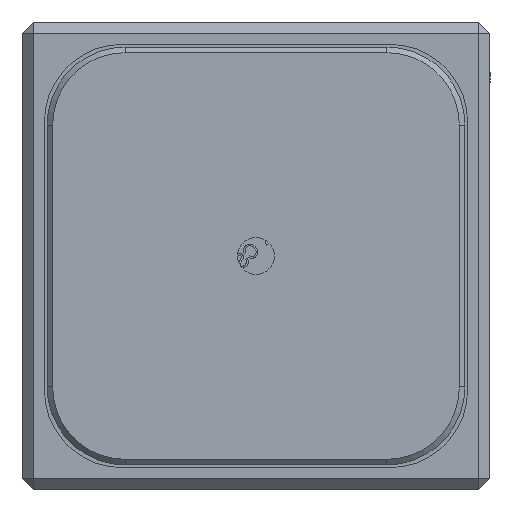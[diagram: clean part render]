
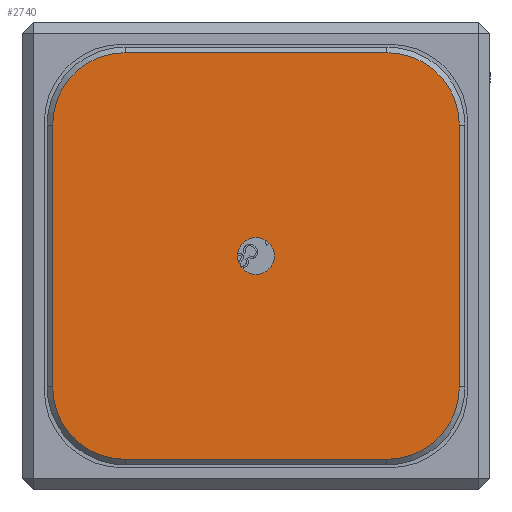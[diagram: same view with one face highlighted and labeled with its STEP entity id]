
A CAD part, front view. The second image highlights one B-rep face of the part: STEP entity #2740.
In plain terms, the highlighted planar face has unit normal (0, -1, 0).
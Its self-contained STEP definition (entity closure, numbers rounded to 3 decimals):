
#69 = CARTESIAN_POINT ( 'NONE',  ( -18.25, -21.2, 11.75 ) ) ;
#154 = ORIENTED_EDGE ( 'NONE', *, *, #4880, .T. ) ;
#442 = VERTEX_POINT ( 'NONE', #15609 ) ;
#465 = EDGE_CURVE ( 'NONE', #442, #1082, #2199, .T. ) ;
#666 = EDGE_CURVE ( 'NONE', #1082, #5731, #16135, .T. ) ;
#970 = CARTESIAN_POINT ( 'NONE',  ( 11.75, -21.2, -18.25 ) ) ;
#1014 = AXIS2_PLACEMENT_3D ( 'NONE', #7688, #13840, #17276 ) ;
#1050 = DIRECTION ( 'NONE',  ( 0., 0., 1. ) ) ;
#1082 = VERTEX_POINT ( 'NONE', #13308 ) ;
#1155 = CARTESIAN_POINT ( 'NONE',  ( 18.25, -21.2, 11.75 ) ) ;
#1922 = CARTESIAN_POINT ( 'NONE',  ( -11.75, -21.2, -11.75 ) ) ;
#2018 = EDGE_LOOP ( 'NONE', ( #2499, #2209, #15304, #154, #7221, #19973, #12090, #19936 ) ) ;
#2199 = LINE ( 'NONE', #6633, #8729 ) ;
#2209 = ORIENTED_EDGE ( 'NONE', *, *, #465, .T. ) ;
#2499 = ORIENTED_EDGE ( 'NONE', *, *, #13467, .T. ) ;
#2637 = DIRECTION ( 'NONE',  ( 0., 0., -1. ) ) ;
#2740 = ADVANCED_FACE ( 'NONE', ( #17013, #10950 ), #4410, .T. ) ;
#2750 = CARTESIAN_POINT ( 'NONE',  ( -18.25, -21.2, -11.75 ) ) ;
#3340 = VERTEX_POINT ( 'NONE', #5508 ) ;
#3693 = AXIS2_PLACEMENT_3D ( 'NONE', #1922, #13093, #4929 ) ;
#3756 = VERTEX_POINT ( 'NONE', #970 ) ;
#4260 = CARTESIAN_POINT ( 'NONE',  ( 0., -21.2, 0. ) ) ;
#4410 = PLANE ( 'NONE',  #18108 ) ;
#4531 = AXIS2_PLACEMENT_3D ( 'NONE', #15765, #10944, #17499 ) ;
#4578 = ORIENTED_EDGE ( 'NONE', *, *, #12892, .F. ) ;
#4880 = EDGE_CURVE ( 'NONE', #5731, #8986, #9009, .T. ) ;
#4929 = DIRECTION ( 'NONE',  ( 0., 0., 1. ) ) ;
#5426 = VERTEX_POINT ( 'NONE', #6349 ) ;
#5508 = CARTESIAN_POINT ( 'NONE',  ( 0., -21.2, 1.65 ) ) ;
#5731 = VERTEX_POINT ( 'NONE', #69 ) ;
#6346 = DIRECTION ( 'NONE',  ( 0., 0., 1. ) ) ;
#6349 = CARTESIAN_POINT ( 'NONE',  ( -11.75, -21.2, -18.25 ) ) ;
#6633 = CARTESIAN_POINT ( 'NONE',  ( -11.75, -21.2, 18.25 ) ) ;
#6717 = CARTESIAN_POINT ( 'NONE',  ( 18.25, -21.2, -11.75 ) ) ;
#7221 = ORIENTED_EDGE ( 'NONE', *, *, #7259, .T. ) ;
#7230 = CIRCLE ( 'NONE', #18513, 1.65 ) ;
#7259 = EDGE_CURVE ( 'NONE', #8986, #5426, #18524, .T. ) ;
#7295 = DIRECTION ( 'NONE',  ( 0., 0., 1. ) ) ;
#7688 = CARTESIAN_POINT ( 'NONE',  ( 11.75, -21.2, -11.75 ) ) ;
#7746 = EDGE_CURVE ( 'NONE', #5426, #3756, #12451, .T. ) ;
#8070 = AXIS2_PLACEMENT_3D ( 'NONE', #4260, #16463, #19404 ) ;
#8240 = DIRECTION ( 'NONE',  ( 0., 0., 1. ) ) ;
#8718 = DIRECTION ( 'NONE',  ( 0., -1., 0. ) ) ;
#8729 = VECTOR ( 'NONE', #12771, 1000. ) ;
#8986 = VERTEX_POINT ( 'NONE', #14425 ) ;
#9009 = LINE ( 'NONE', #2750, #16827 ) ;
#10310 = CARTESIAN_POINT ( 'NONE',  ( 0., -21.2, 0. ) ) ;
#10568 = CARTESIAN_POINT ( 'NONE',  ( 0., -21.2, 0. ) ) ;
#10944 = DIRECTION ( 'NONE',  ( 0., -1., 0. ) ) ;
#10950 = FACE_BOUND ( 'NONE', #16269, .T. ) ;
#11480 = CARTESIAN_POINT ( 'NONE',  ( 18.25, -21.2, 11.75 ) ) ;
#12090 = ORIENTED_EDGE ( 'NONE', *, *, #13104, .T. ) ;
#12148 = DIRECTION ( 'NONE',  ( 1., 0., 0. ) ) ;
#12451 = LINE ( 'NONE', #17001, #16906 ) ;
#12556 = VERTEX_POINT ( 'NONE', #6717 ) ;
#12574 = CIRCLE ( 'NONE', #1014, 6.5 ) ;
#12771 = DIRECTION ( 'NONE',  ( -1., 0., 0. ) ) ;
#12860 = ORIENTED_EDGE ( 'NONE', *, *, #17289, .F. ) ;
#12892 = EDGE_CURVE ( 'NONE', #19875, #3340, #16488, .T. ) ;
#13093 = DIRECTION ( 'NONE',  ( 0., -1., 0. ) ) ;
#13104 = EDGE_CURVE ( 'NONE', #3756, #12556, #12574, .T. ) ;
#13308 = CARTESIAN_POINT ( 'NONE',  ( -11.75, -21.2, 18.25 ) ) ;
#13432 = LINE ( 'NONE', #1155, #17800 ) ;
#13467 = EDGE_CURVE ( 'NONE', #17827, #442, #15152, .T. ) ;
#13840 = DIRECTION ( 'NONE',  ( 0., -1., 0. ) ) ;
#14192 = AXIS2_PLACEMENT_3D ( 'NONE', #15522, #17254, #6346 ) ;
#14425 = CARTESIAN_POINT ( 'NONE',  ( -18.25, -21.2, -11.75 ) ) ;
#15152 = CIRCLE ( 'NONE', #14192, 6.5 ) ;
#15304 = ORIENTED_EDGE ( 'NONE', *, *, #666, .T. ) ;
#15382 = EDGE_CURVE ( 'NONE', #12556, #17827, #13432, .T. ) ;
#15522 = CARTESIAN_POINT ( 'NONE',  ( 11.75, -21.2, 11.75 ) ) ;
#15609 = CARTESIAN_POINT ( 'NONE',  ( 11.75, -21.2, 18.25 ) ) ;
#15765 = CARTESIAN_POINT ( 'NONE',  ( -11.75, -21.2, 11.75 ) ) ;
#16135 = CIRCLE ( 'NONE', #4531, 6.5 ) ;
#16269 = EDGE_LOOP ( 'NONE', ( #12860, #4578 ) ) ;
#16463 = DIRECTION ( 'NONE',  ( 0., -1., 0. ) ) ;
#16488 = CIRCLE ( 'NONE', #8070, 1.65 ) ;
#16713 = DIRECTION ( 'NONE',  ( 0., -1., 0. ) ) ;
#16827 = VECTOR ( 'NONE', #2637, 1000. ) ;
#16906 = VECTOR ( 'NONE', #12148, 1000. ) ;
#17001 = CARTESIAN_POINT ( 'NONE',  ( 11.75, -21.2, -18.25 ) ) ;
#17013 = FACE_OUTER_BOUND ( 'NONE', #2018, .T. ) ;
#17254 = DIRECTION ( 'NONE',  ( 0., -1., 0. ) ) ;
#17276 = DIRECTION ( 'NONE',  ( 0., 0., 1. ) ) ;
#17289 = EDGE_CURVE ( 'NONE', #3340, #19875, #7230, .T. ) ;
#17499 = DIRECTION ( 'NONE',  ( 0., 0., 1. ) ) ;
#17800 = VECTOR ( 'NONE', #7295, 1000. ) ;
#17827 = VERTEX_POINT ( 'NONE', #11480 ) ;
#18108 = AXIS2_PLACEMENT_3D ( 'NONE', #10568, #16713, #8240 ) ;
#18513 = AXIS2_PLACEMENT_3D ( 'NONE', #10310, #8718, #1050 ) ;
#18524 = CIRCLE ( 'NONE', #3693, 6.5 ) ;
#19404 = DIRECTION ( 'NONE',  ( 0., 0., 1. ) ) ;
#19875 = VERTEX_POINT ( 'NONE', #19915 ) ;
#19915 = CARTESIAN_POINT ( 'NONE',  ( 0., -21.2, -1.65 ) ) ;
#19936 = ORIENTED_EDGE ( 'NONE', *, *, #15382, .T. ) ;
#19973 = ORIENTED_EDGE ( 'NONE', *, *, #7746, .T. ) ;
